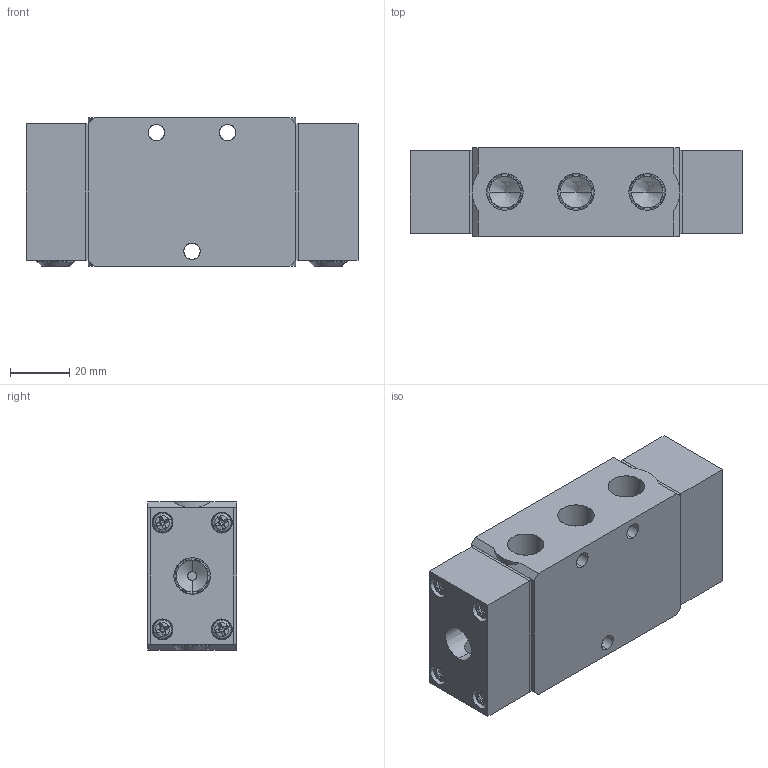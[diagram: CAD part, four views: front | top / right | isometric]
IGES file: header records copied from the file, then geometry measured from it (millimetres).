
Start section: SolidWorks IGES file using analytic representation for surfaces
Global section: file name: D:\Custom\3D繪製\VM\V06,10\VP2406-02.IGS,1; native system: 5HSolidWorks 2014; preprocessor: SolidWorks 2014; author: Chieh_Lu; date: 160114.024131; units: millimetre
Bounding box: 112 x 30.1 x 50 mm (x, y, z)
Surface area: 42164.2 mm2 (no closed solid volume)
Topology: 0 solids, 0 shells, 711 faces, 7400 edges, 7356 vertices
Faces by surface type: bspline 468, revolution 243
